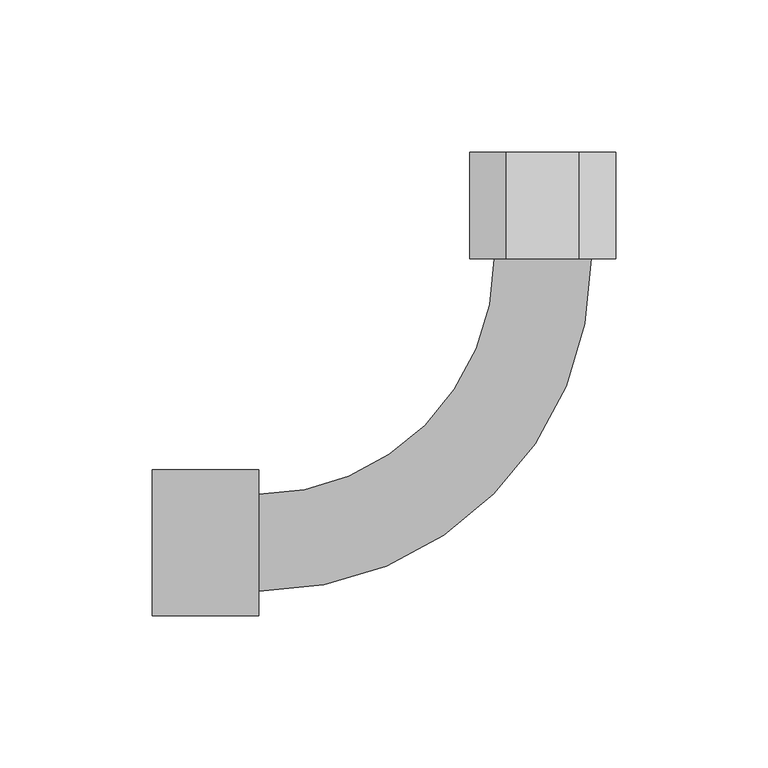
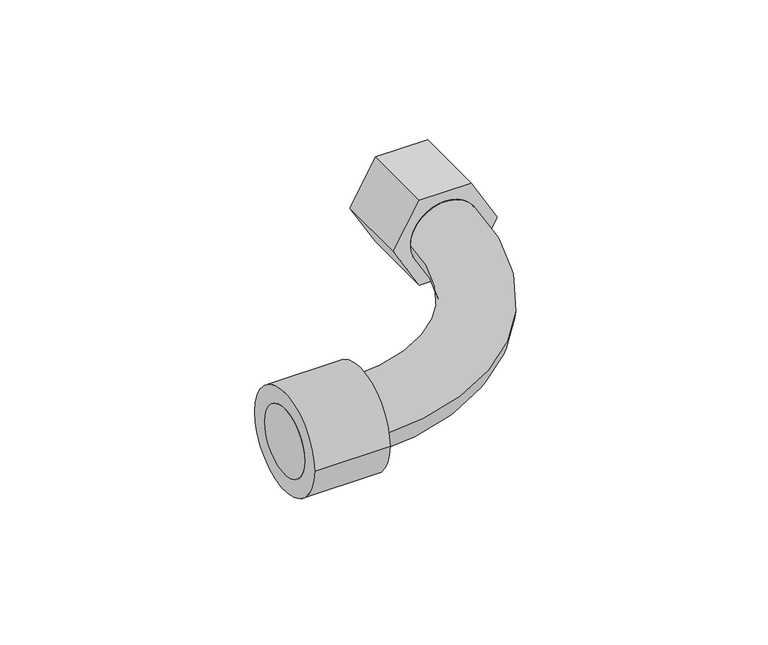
"""IFC4 building model written with IfcOpenShell, lengths in millimetres: cable carrier fitting geometry, Муфта гибкая труба-коробка CXS : Муфта гибкая труба-коробка CXS."""

from ifc_helpers import new_model, si_unit, point, frame, origin, origin_2d, place, context, project, spatial, polyline, circle_curve, ellipse_curve, trimmed, segment, composite_curve, outline, extrude, source, transform, mapped, element, save
from ifc_brep_helpers import plane_surface, cylinder_surface, revolved_surface, advanced_brep


def cable_carrier_fitting_24dc891e(model_context):
    return source(origin(), model_context, "Body", "SolidModel", [
        advanced_brep(
        [(-128.27, -15.9893, 0.0), (-128.27, 15.9893, 0.0), (-93.2942, -15.9893, 0.0), (-93.2942, 15.9893, 0.0), (-15.9893, 93.2942, 0.0), (15.9893, 93.2942, 0.0), (15.9893, 128.27, 0.0), (-15.9893, 128.27, 0.0)],
        [
            (0, 1, circle_curve(frame((-128.27, 0.0, 0.0), z_axis=(-1.0, 0.0, 0.0), x_axis=(0.0, 1.0, 0.0)), 15.9893)),
            (1, 0, circle_curve(frame((-128.27, 0.0, 0.0), z_axis=(-1.0, 0.0, 0.0), x_axis=(0.0, 1.0, 0.0)), 15.9893)),
            (0, 2),
            (2, 3, circle_curve(frame((-93.2942, 0.0, 0.0), z_axis=(-1.0, 0.0, 0.0), x_axis=(0.0, 1.0, 0.0)), 15.9893)),
            (3, 1),
            (3, 2, circle_curve(frame((-93.2942, 0.0, 0.0), z_axis=(-1.0, 0.0, 0.0), x_axis=(0.0, 1.0, 0.0)), 15.9893)),
            (4, 3, circle_curve(frame((-93.2942, 93.2942, 0.0), z_axis=(0.0, 0.0, -1.0), x_axis=(0.0, -1.0, 0.0)), 77.3049)),
            (2, 5, circle_curve(frame((-93.2942, 93.2942, 0.0), z_axis=(0.0, 0.0, 1.0), x_axis=(0.0, -1.0, 0.0)), 109.2835)),
            (5, 4, circle_curve(frame((0.0, 93.2942, 0.0), z_axis=(0.0, -1.0, 0.0), x_axis=(-1.0, 0.0, 0.0)), 15.9893)),
            (4, 5, circle_curve(frame((0.0, 93.2942, 0.0), z_axis=(0.0, -1.0, 0.0), x_axis=(-1.0, 0.0, 0.0)), 15.9893)),
            (6, 7, circle_curve(frame((0.0, 128.27, 0.0), z_axis=(0.0, 1.0, 0.0), x_axis=(-1.0, 0.0, 0.0)), 15.9893)),
            (7, 6, circle_curve(frame((0.0, 128.27, 0.0), z_axis=(0.0, 1.0, 0.0), x_axis=(-1.0, 0.0, 0.0)), 15.9893)),
            (5, 6),
            (7, 4),
        ],
        [
            plane_surface(frame((-128.27, 0.0, 0.0), z_axis=(-1.0, 0.0, 0.0), x_axis=(0.0, 0.0, 1.0))),
            cylinder_surface(frame((-128.27, 0.0, 0.0), z_axis=(-1.0, 0.0, 0.0), x_axis=(0.0, 1.0, 0.0)), 15.9893),
            revolved_surface(trimmed(ellipse_curve(frame((-93.2942, 0.0, 0.0), z_axis=(-1.0, 0.0, 0.0), x_axis=(0.0, 1.0, 0.0)), 15.9893, 15.9893), [point((-93.2942, -15.9893, 0.0))], [point((-93.2942, 15.9893, 0.0))], True, "CARTESIAN"), (-93.2942, 93.2942, 0.0), (0.0, 0.0, 1.0)),
            revolved_surface(trimmed(ellipse_curve(frame((-93.2942, 0.0, 0.0), z_axis=(-1.0, 0.0, 0.0), x_axis=(0.0, 1.0, 0.0)), 15.9893, 15.9893), [point((-93.2942, 15.9893, 0.0))], [point((-93.2942, -15.9893, 0.0))], True, "CARTESIAN"), (-93.2942, 93.2942, 0.0), (0.0, 0.0, 1.0)),
            plane_surface(frame((0.0, 128.27, 0.0), z_axis=(0.0, 1.0, 0.0), x_axis=(0.0, 0.0, 1.0))),
            cylinder_surface(frame((0.0, 93.2942, 0.0), z_axis=(0.0, -1.0, 0.0), x_axis=(-1.0, 0.0, 0.0)), 15.9893),
        ],
        [
            (0, [[1, 2]]),
            (1, [[-1, 3, 4, 5]]),
            (1, [[-2, -5, 6, -3]]),
            (2, [[7, -4, 8, 9]]),
            (3, [[-8, -6, -7, 10]]),
            (4, [[11, 12]]),
            (5, [[-9, 13, -12, 14]]),
            (5, [[-10, -14, -11, -13]]),
        ],
    ),
        extrude(outline(composite_curve([segment(trimmed(circle_curve(origin_2d(), 24.0), [point((-24.0, 0.0))], [point((24.0, 0.0))], False, "CARTESIAN"), True, "CONTINUOUS"), segment(trimmed(circle_curve(origin_2d(), 24.0), [point((24.0, 0.0))], [point((-24.0, 0.0))], False, "CARTESIAN"), True, "CONTINUOUS")], self_intersect=False)), frame((-128.27, 0.0, 0.0), z_axis=(1.0, 0.0, 0.0), x_axis=(0.0, 1.0, 0.0)), (0.0, 0.0, 1.0), 34.9758),
        extrude(outline(polyline([(-20.7846097, 12.0), (0.0, 24.0), (20.7846097, 12.0), (20.7846097, -12.0), (0.0, -24.0), (-20.7846097, -12.0), (-20.7846097, 12.0)])), frame((0.0, 93.2942, 0.0), z_axis=(0.0, 1.0, 0.0), x_axis=(0.0, 0.0, 1.0)), (0.0, 0.0, 1.0), 34.9758),
    ])


if __name__ == "__main__":
    model = new_model("IFC4")
    model_context = context("Model", 3, world=origin())
    ifc_project = project(units=[si_unit("LENGTHUNIT", "METRE", prefix="MILLI")], contexts=[model_context])
    site = spatial("IfcSite", under=ifc_project)
    building = spatial("IfcBuilding", under=site)
    placement = place(None, origin())
    cable_carrier_fitting_shape = cable_carrier_fitting_24dc891e(model_context)
    element("IfcCableCarrierFitting", 1, ObjectType="Муфта гибкая труба-коробка CXS : Муфта гибкая труба-коробка CXS", at=placement, inside=building, context=model_context, shape_type="MappedRepresentation", body=[
        mapped(cable_carrier_fitting_shape, transform((0.0, 0.0, 0.0), x_axis=(1.0, 0.0, 0.0), y_axis=(0.0, 1.0, 0.0), z_axis=(0.0, 0.0, 1.0))),
    ])
    save(model, "model.ifc")
